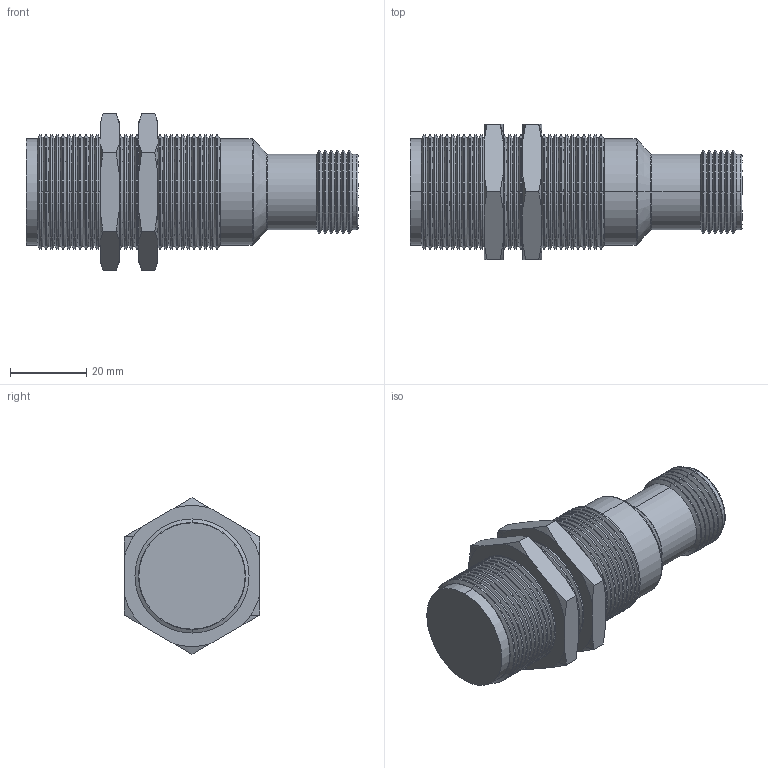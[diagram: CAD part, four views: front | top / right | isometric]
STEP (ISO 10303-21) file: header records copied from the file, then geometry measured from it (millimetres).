
FILE_DESCRIPTION (( 'STEP AP203' ), '1' );
FILE_NAME ('90-XXXX-051.STEP', '2015-08-31T03:42:43', ( 'Sam' ), ( 'Spade' ), 'SwSTEP 2.0', 'SolidWorks 2002296', '' );
FILE_SCHEMA (( 'CONFIG_CONTROL_DESIGN' ));
Length unit declared in the file: inch
Products named in the file (10): 90-XXXX-051; Imported290; Imported289; Imported288; Imported287; Imported294; Imported293; Imported292; Imported291; Imported295
Assembly tree (9 placements, depth 2):
  90-XXXX-051
    Imported293
    Imported289
    Imported291
    Imported295
    Imported292
    Imported288
    Imported294
    Imported290
    Imported287
Bounding box: 87.3 x 35.64 x 41.15 mm (x, y, z)
Volume: 51671.9 mm3; surface area: 20965.9 mm2
Topology: 9 solids, 9 shells, 386 faces, 890 edges, 524 vertices
Faces by surface type: cone 194, cylinder 110, bspline 44, plane 38
Entity records: 12527 total; most frequent: CARTESIAN_POINT 2678, DIRECTION 2009, ORIENTED_EDGE 1768, EDGE_CURVE 884, AXIS2_PLACEMENT_3D 831, VERTEX_POINT 524, CIRCLE 477, EDGE_LOOP 398
